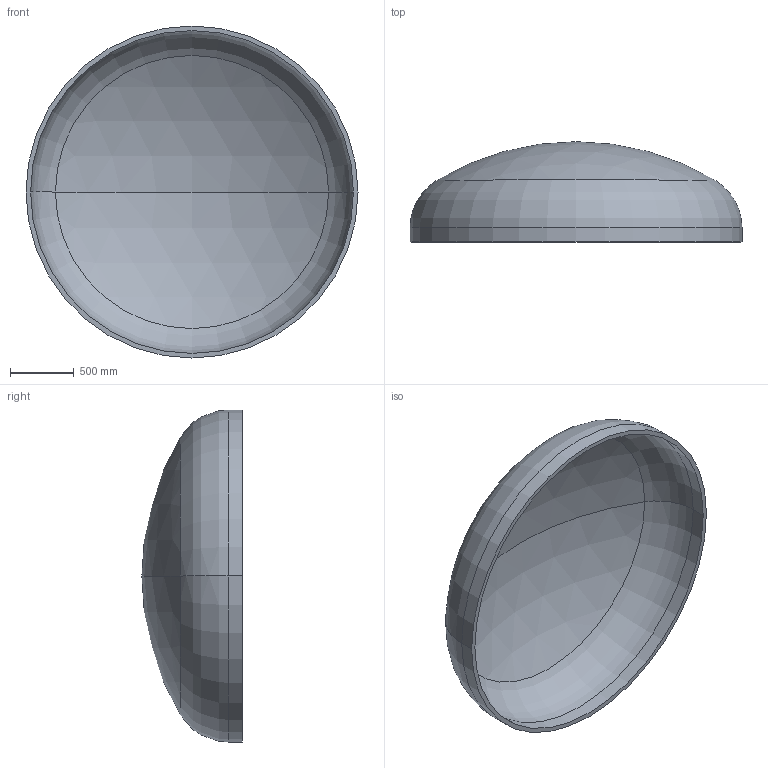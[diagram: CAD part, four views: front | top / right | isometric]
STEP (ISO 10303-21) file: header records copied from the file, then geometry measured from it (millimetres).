
FILE_DESCRIPTION (( 'STEP AP203' ), '1' );
FILE_NAME ('DIN 28013 Korbbogenform_-_Boden DIN 28013 - 2600 x 110 - I - s=36.step', '2016-07-01T16:08:08', ( '' ), ( '' ), 'SwSTEP 2.0', 'SolidWorks 2013', '' );
FILE_SCHEMA (( 'CONFIG_CONTROL_DESIGN' ));
Length unit declared in the file: millimetre
Products named in the file (1): DIN 28013 Korbbogenform_-_Boden DIN 28013 - 2600 x 110 - I - s=36
Bounding box: 2600 x 785.2 x 2600 mm (x, y, z)
Volume: 291766307.7 mm3; surface area: 16501929.6 mm2
Topology: 1 solids, 1 shells, 13 faces, 24 edges, 14 vertices
Faces by surface type: torus 4, cylinder 4, sphere 4, plane 1
Entity records: 407 total; most frequent: DIRECTION 72, CARTESIAN_POINT 52, ORIENTED_EDGE 48, AXIS2_PLACEMENT_3D 34, EDGE_CURVE 24, CIRCLE 20, EDGE_LOOP 14, VERTEX_POINT 14
